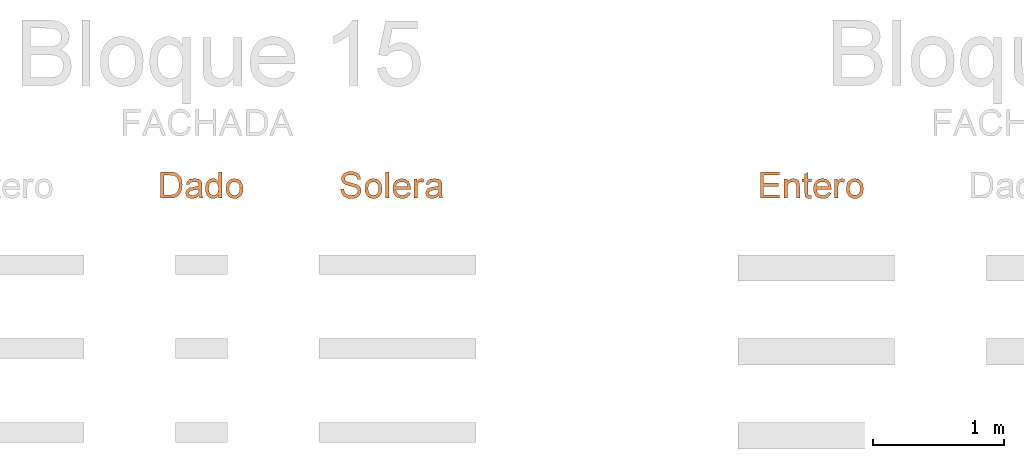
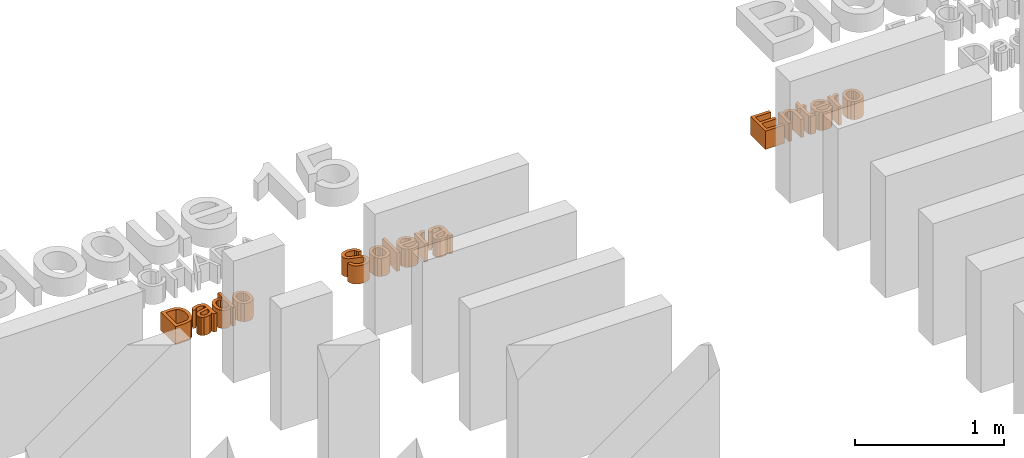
# One storey, part 18 of 19: 3 proxies.
"""IFC2X3 building model written with IfcOpenShell, lengths in metres."""

from ifc_helpers import new_model, entity, si_unit, converted_unit, derived_unit, direction, frame, frame_2d, origin, place, context, subcontext, project, spatial, polyline, rectangle, outline, extrude, type_object, element, save


model = new_model("IFC2X3")

# Units and contexts
model_context = context("Model", 3, precision=1e-05, world=origin(), true_north=direction((6.12303176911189e-17, 1.0)))
body_context = subcontext(model_context, "Body", "Model", "MODEL_VIEW")
ifc_project = project(units=[si_unit("LENGTHUNIT", "METRE"), si_unit("AREAUNIT", "SQUARE_METRE"), si_unit("VOLUMEUNIT", "CUBIC_METRE"), converted_unit("PLANEANGLEUNIT", "DEGREE", entity("IfcRatioMeasure", 0.0174532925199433), si_unit("PLANEANGLEUNIT", "RADIAN"), dimensions=[0, 0, 0, 0, 0, 0, 0]), si_unit("MASSUNIT", "GRAM", prefix="KILO"), derived_unit("MASSDENSITYUNIT", [(si_unit("MASSUNIT", "GRAM", prefix="KILO"), 1), (si_unit("LENGTHUNIT", "METRE"), -3)]), derived_unit("MOMENTOFINERTIAUNIT", [(si_unit("LENGTHUNIT", "METRE"), 4)]), si_unit("TIMEUNIT", "SECOND"), si_unit("FREQUENCYUNIT", "HERTZ"), si_unit("THERMODYNAMICTEMPERATUREUNIT", "DEGREE_CELSIUS"), derived_unit("THERMALTRANSMITTANCEUNIT", [(si_unit("MASSUNIT", "GRAM", prefix="KILO"), 1), (si_unit("THERMODYNAMICTEMPERATUREUNIT", "KELVIN"), -1), (si_unit("TIMEUNIT", "SECOND"), -3)]), derived_unit("VOLUMETRICFLOWRATEUNIT", [(si_unit("LENGTHUNIT", "METRE"), 3), (si_unit("TIMEUNIT", "SECOND"), -1)]), si_unit("ELECTRICCURRENTUNIT", "AMPERE"), si_unit("ELECTRICVOLTAGEUNIT", "VOLT"), si_unit("POWERUNIT", "WATT"), si_unit("FORCEUNIT", "NEWTON", prefix="KILO"), si_unit("ILLUMINANCEUNIT", "LUX"), si_unit("LUMINOUSFLUXUNIT", "LUMEN"), si_unit("LUMINOUSINTENSITYUNIT", "CANDELA"), derived_unit("USERDEFINED", [(si_unit("MASSUNIT", "GRAM", prefix="KILO"), -1), (si_unit("LENGTHUNIT", "METRE"), -2), (si_unit("TIMEUNIT", "SECOND"), 3), (si_unit("LUMINOUSFLUXUNIT", "LUMEN"), 1)]), derived_unit("LINEARVELOCITYUNIT", [(si_unit("LENGTHUNIT", "METRE"), 1), (si_unit("TIMEUNIT", "SECOND"), -1)]), si_unit("PRESSUREUNIT", "PASCAL"), derived_unit("USERDEFINED", [(si_unit("LENGTHUNIT", "METRE"), -2), (si_unit("MASSUNIT", "GRAM", prefix="KILO"), 1), (si_unit("TIMEUNIT", "SECOND"), -2)]), derived_unit("LINEARFORCEUNIT", [(si_unit("MASSUNIT", "GRAM", prefix="KILO"), 1), (si_unit("LENGTHUNIT", "METRE"), 1), (si_unit("TIMEUNIT", "SECOND"), -2), (si_unit("LENGTHUNIT", "METRE"), -1)]), derived_unit("PLANARFORCEUNIT", [(si_unit("MASSUNIT", "GRAM", prefix="KILO"), 1), (si_unit("LENGTHUNIT", "METRE"), 1), (si_unit("TIMEUNIT", "SECOND"), -2), (si_unit("LENGTHUNIT", "METRE"), -2)])], contexts=[model_context])

# Site, building, storey
site_placement = place(None, origin())
site = spatial("IfcSite", under=ifc_project, at=site_placement, Name="Default", CompositionType="ELEMENT")
building_placement = place(site_placement, origin())
building = spatial("IfcBuilding", under=site, at=building_placement, CompositionType="ELEMENT")
storey_placement = place(building_placement, origin())
storey = spatial("IfcBuildingStorey", under=building, at=storey_placement, Name="Nivel 1", CompositionType="ELEMENT", Elevation=0.0)

# Proxies
building_element_proxy_type_1 = type_object("IfcBuildingElementProxyType", Name="Texto de modelo:Subtítulo", PredefinedType="NOTDEFINED")
proxy_1_placement = place(storey_placement, origin())
element("IfcBuildingElementProxy", 1, at=proxy_1_placement, inside=storey, type_object=building_element_proxy_type_1, Name="Texto de modelo:Subtítulo", ObjectType="Texto de modelo:Subtítulo", context=body_context, shape_type="SweptSolid", body=[
    extrude(outline(polyline([(-0.112205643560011, -0.108781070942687), (-0.0395612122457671, -0.108781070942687), (-0.00726117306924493, -0.105347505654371), (0.0167492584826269, -0.0952675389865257), (0.0350943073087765, -0.0770451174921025), (0.0488285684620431, -0.0477862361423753), (0.0541751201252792, -0.00724564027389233), (0.0522008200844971, 0.0181382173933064), (0.0462779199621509, 0.0405299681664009), (0.0363818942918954, 0.0595617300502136), (0.022488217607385, 0.074865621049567), (0.00897468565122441, 0.0836580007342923), (-0.0070404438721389, 0.0892375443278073), (-0.0428966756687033, 0.0921315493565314), (-0.112205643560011, 0.0921315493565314), (-0.112205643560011, -0.108781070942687)]), holes=[polyline([(-0.0870915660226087, -0.0836669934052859), (-0.0870915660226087, 0.0670174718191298), (-0.0433381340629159, 0.0670174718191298), (-0.00772715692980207, 0.06299529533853), (0.00646695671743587, 0.0546075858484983), (0.0183434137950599, 0.0407261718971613), (0.0263816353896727, 0.0205171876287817), (0.0290610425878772, -0.00685323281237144), (0.0276937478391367, -0.0275098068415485), (0.0235918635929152, -0.04484318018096), (0.0170374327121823, -0.0589146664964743), (0.00831249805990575, -0.0697855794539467), (-0.010326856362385, -0.0800372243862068), (-0.0426514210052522, -0.0836669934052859), (-0.0870915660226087, -0.0836669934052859)])]), frame((2.65097390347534, 10.1620496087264, 0.0)), (0.0, 0.0, 1.0), 0.15),
    extrude(outline(polyline([(0.0711345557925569, 0.0146039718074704), (0.0909889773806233, 0.0146039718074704), (0.0989307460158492, 0.0384292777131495), (0.0773157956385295, 0.0403604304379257), (0.0355206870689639, 0.0529478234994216), (0.00587865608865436, 0.0628285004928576), (-0.0153562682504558, 0.0686142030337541), (-0.033962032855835, 0.066698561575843), (-0.050031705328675, 0.0539327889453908), (-0.0638910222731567, 0.0264700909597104), (-0.069575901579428, -0.00656115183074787), (-0.0677610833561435, -0.0204670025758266), (-0.0628595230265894, -0.0318600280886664), (-0.0430283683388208, -0.0499228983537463), (-0.0321084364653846, -0.0270903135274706), (-0.0404360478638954, -0.0190535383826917), (-0.0445407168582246, -0.0101752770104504), (-0.0446745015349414, 0.000882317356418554), (-0.0410894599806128, 0.0154570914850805), (-0.034256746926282, 0.0302160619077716), (-0.0254230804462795, 0.0394995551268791), (-0.0168259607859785, 0.0421015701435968), (-0.0056462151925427, 0.0401975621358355), (-0.000387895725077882, 0.038289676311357), (-0.00597195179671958, -0.00576232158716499), (-0.00926034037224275, -0.0275711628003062), (-0.0070034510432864, -0.0468594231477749), (0.00268333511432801, -0.0634021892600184), (0.0200094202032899, -0.0742445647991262), (0.0370349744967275, -0.0765654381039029), (0.0529320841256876, -0.0718015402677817), (0.0663086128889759, -0.0599412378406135), (0.075772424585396, -0.0409728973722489), (0.0795804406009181, -0.0138824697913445), (0.0711345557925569, 0.0146039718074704)]), holes=[polyline([(0.0234839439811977, 0.0304875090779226), (0.0301848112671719, 0.0280987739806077), (0.047355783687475, 0.0181870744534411), (0.055972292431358, -0.00195430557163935), (0.0564783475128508, -0.0146871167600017), (0.0536378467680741, -0.0279589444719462), (0.0483232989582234, -0.0395982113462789), (0.0415313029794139, -0.0470610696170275), (0.0339521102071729, -0.0504483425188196), (0.026275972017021, -0.0498608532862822), (0.0181946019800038, -0.043547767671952), (0.0150070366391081, -0.0321702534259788), (0.0179774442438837, -0.0103846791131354), (0.0234839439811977, 0.0304875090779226)])]), frame((2.7943701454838, 10.1349700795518, 0.0), z_axis=(0.0, 0.0, 1.0), x_axis=(0.316227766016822, -0.948683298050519, 0.0)), (0.0, 0.0, 1.0), 0.15),
    extrude(outline(polyline([(0.0429290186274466, -0.0757009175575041), (0.0680430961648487, -0.0757009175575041), (0.0680430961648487, 0.125211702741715), (0.0429290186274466, 0.125211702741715), (0.0429290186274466, 0.050359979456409), (0.0263988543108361, 0.0681409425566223), (0.0155340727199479, 0.0732728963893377), (0.00324681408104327, 0.0749835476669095), (-0.0136205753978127, 0.0725923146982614), (-0.0288079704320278, 0.065418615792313), (-0.0413650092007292, 0.0537567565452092), (-0.0503413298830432, 0.0379010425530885), (-0.055730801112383, 0.0189305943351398), (-0.0575272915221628, -0.00207546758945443), (-0.0555775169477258, -0.0233451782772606), (-0.0497281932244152, -0.0420274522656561), (-0.0403349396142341, -0.0574968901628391), (-0.0277533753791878, -0.069128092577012), (-0.0128909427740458, -0.0764121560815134), (0.0033449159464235, -0.0788401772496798), (0.0156229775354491, -0.0771632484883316), (0.0263130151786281, -0.0721324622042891), (0.0354150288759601, -0.0637478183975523), (0.0429290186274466, -0.052009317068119), (0.0429290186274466, -0.0757009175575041)]), holes=[polyline([(-0.0324132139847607, -0.00197736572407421), (-0.0297644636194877, 0.0213034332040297), (-0.0218182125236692, 0.0373860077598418), (-0.00991109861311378, 0.0467486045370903), (0.00462024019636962, 0.0498694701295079), (0.0195255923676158, 0.0466198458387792), (0.0318680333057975, 0.0368709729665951), (0.0401637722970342, 0.0201813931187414), (0.0429290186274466, -0.00389035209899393), (0.0402128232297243, -0.0259080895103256), (0.0320642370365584, -0.0414388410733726), (0.0200283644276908, -0.0506542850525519), (0.00565030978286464, -0.0537260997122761), (-0.00873387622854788, -0.0505071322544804), (-0.0210824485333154, -0.0408502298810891), (-0.0295805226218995, -0.0246940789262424), (-0.0324132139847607, -0.00197736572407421)])]), frame((2.9384748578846, 10.1289694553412, 0.0)), (0.0, 0.0, 1.0), 0.15),
    extrude(outline(polyline([(-0.0116534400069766, -0.0669843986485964), (0.0215735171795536, -0.0669843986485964), (0.0474010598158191, -0.0567621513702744), (0.0650090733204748, -0.0379496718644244), (0.0735774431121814, -0.012178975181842), (0.0737787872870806, 0.00568792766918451), (0.0693254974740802, 0.0227506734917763), (0.0604863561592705, 0.0378207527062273), (0.0475301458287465, 0.0497096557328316), (0.0292360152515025, 0.0584068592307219), (0.00438311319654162, 0.0639018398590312), (-0.0272289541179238, 0.0636287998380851), (-0.05258472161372, 0.0531926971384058), (-0.0702507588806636, 0.0343634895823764), (-0.0787936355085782, 0.00891113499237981), (-0.0780541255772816, -0.015529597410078), (-0.0686800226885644, -0.0371544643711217), (-0.0589084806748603, -0.0481042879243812), (-0.0461468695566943, -0.0567258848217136), (-0.0116534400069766, -0.0669843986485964)]), holes=[polyline([(-0.00825874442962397, -0.0421007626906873), (-0.0303624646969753, -0.0361073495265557), (-0.045170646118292, -0.0252557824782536), (-0.0529373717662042, -0.0109345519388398), (-0.0539167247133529, 0.00546785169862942), (-0.0485294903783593, 0.0208219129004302), (-0.0371292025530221, 0.0324839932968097), (-0.0201048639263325, 0.0389852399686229), (0.00215452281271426, 0.0388567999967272), (0.0247623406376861, 0.0327936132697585), (0.0398195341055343, 0.0219075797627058), (0.0476807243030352, 0.00759803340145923), (0.048700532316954, -0.00873569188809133), (0.043290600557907, -0.024253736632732), (0.0318894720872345, -0.0359218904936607), (0.0146540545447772, -0.0423382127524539), (-0.00825874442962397, -0.0421007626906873)])]), frame((3.10586013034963, 10.1246816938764, 0.0), z_axis=(0.0, 0.0, 1.0), x_axis=(0.137105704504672, -0.990556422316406, 0.0)), (0.0, 0.0, 1.0), 0.15),
])
building_element_proxy_type_2 = type_object("IfcBuildingElementProxyType", Name="Texto de modelo:Subtítulo", PredefinedType="NOTDEFINED")
proxy_2_placement = place(storey_placement, origin())
element("IfcBuildingElementProxy", 2, at=proxy_2_placement, inside=storey, type_object=building_element_proxy_type_2, Name="Texto de modelo:Subtítulo", ObjectType="Texto de modelo:Subtítulo", context=body_context, shape_type="SweptSolid", body=[
    extrude(outline(polyline([(0.0218430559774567, -0.0830511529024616), (0.042343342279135, -0.0830511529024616), (0.0613692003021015, -0.077901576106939), (0.0778293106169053, -0.067944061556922), (0.0906323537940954, -0.0535202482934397), (0.0998364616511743, -0.0344031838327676), (0.105499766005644, -0.0103659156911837), (0.106478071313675, 0.00974895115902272), (0.103281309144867, 0.0283577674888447), (0.0961570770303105, 0.0444883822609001), (0.0853529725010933, 0.0571686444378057), (0.0719268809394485, 0.0659642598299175), (0.0569366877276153, 0.0704409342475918), (0.0416687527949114, 0.0707071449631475), (0.0277006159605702, 0.0668285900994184), (0.0151233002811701, 0.058581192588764), (0.00402782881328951, 0.0457408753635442), (-0.0149040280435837, 0.00360508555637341), (-0.025816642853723, -0.0219105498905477), (-0.0347441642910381, -0.0349268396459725), (-0.0432956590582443, -0.0397313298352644), (-0.0531344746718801, -0.0403061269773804), (-0.0639228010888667, -0.0358704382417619), (-0.0721198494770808, -0.0261140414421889), (-0.0763993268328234, -0.010698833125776), (-0.075434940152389, 0.0107132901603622), (-0.0702469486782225, 0.0310091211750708), (-0.0615846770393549, 0.0449195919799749), (-0.0494863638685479, 0.052859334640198), (-0.0339902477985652, 0.055242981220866), (-0.0303397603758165, 0.0800903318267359), (-0.0472153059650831, 0.079706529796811), (-0.0628948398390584, 0.0748089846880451), (-0.076602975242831, 0.0654449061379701), (-0.087564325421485, 0.0516615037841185), (-0.0955734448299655, 0.0340978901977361), (-0.100424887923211, 0.0133931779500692), (-0.101575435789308, -0.0062068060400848), (-0.0990665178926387, -0.0244356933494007), (-0.0928592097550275, -0.0402270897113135), (-0.0829145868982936, -0.052514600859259), (-0.0702935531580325, -0.0609688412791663), (-0.0560570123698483, -0.0652604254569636), (-0.0427830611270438, -0.0654319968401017), (-0.03033211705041, -0.0619254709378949), (-0.0189136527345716, -0.0546481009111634), (-0.00873714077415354, -0.0435071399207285), (0.00923839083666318, -0.00636211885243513), (0.0240413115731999, 0.0284230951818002), (0.0307494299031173, 0.0382702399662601), (0.0378057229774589, 0.0436538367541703), (0.0539170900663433, 0.0455008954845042), (0.0697778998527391, 0.0375436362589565), (0.079786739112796, 0.0189441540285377), (0.0805098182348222, -0.00768602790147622), (0.0767013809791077, -0.0231896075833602), (0.070138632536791, -0.0366028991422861), (0.0615194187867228, -0.0470988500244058), (0.0515415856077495, -0.0538504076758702), (0.0254935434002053, -0.0582038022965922), (0.0218430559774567, -0.0830511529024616)])), frame((3.99385838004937, 10.1560153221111, 0.0), z_axis=(0.0, 0.0, 1.0), x_axis=(0.145356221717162, -0.989379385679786, 0.0)), (0.0, 0.0, 1.0), 0.15),
    extrude(outline(polyline([(-0.0116534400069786, -0.066984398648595), (0.0215735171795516, -0.066984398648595), (0.0474010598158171, -0.056762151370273), (0.0650090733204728, -0.0379496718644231), (0.0735774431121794, -0.0121789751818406), (0.0737787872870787, 0.00568792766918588), (0.0693254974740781, 0.0227506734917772), (0.0604863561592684, 0.0378207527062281), (0.0475301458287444, 0.0497096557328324), (0.0292360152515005, 0.0584068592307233), (0.00438311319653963, 0.0639018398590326), (-0.0272289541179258, 0.0636287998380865), (-0.0525847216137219, 0.0531926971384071), (-0.0702507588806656, 0.0343634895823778), (-0.0787936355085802, 0.00891113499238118), (-0.0780541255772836, -0.0155295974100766), (-0.0686800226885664, -0.0371544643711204), (-0.0589084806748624, -0.0481042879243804), (-0.0461468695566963, -0.0567258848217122), (-0.0116534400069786, -0.066984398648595)]), holes=[polyline([(-0.00825874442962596, -0.042100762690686), (-0.0303624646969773, -0.0361073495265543), (-0.0451706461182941, -0.0252557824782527), (-0.0529373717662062, -0.0109345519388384), (-0.0539167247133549, 0.00546785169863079), (-0.0485294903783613, 0.0208219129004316), (-0.0371292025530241, 0.032483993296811), (-0.0201048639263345, 0.0389852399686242), (0.00215452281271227, 0.0388567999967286), (0.0247623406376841, 0.0327936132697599), (0.0398195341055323, 0.0219075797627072), (0.0476807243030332, 0.0075980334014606), (0.048700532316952, -0.00873569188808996), (0.043290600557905, -0.0242537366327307), (0.0318894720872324, -0.0359218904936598), (0.0146540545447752, -0.0423382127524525), (-0.00825874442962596, -0.042100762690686)])]), frame((4.16803020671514, 10.1246816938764, 0.0), z_axis=(0.0, 0.0, 1.0), x_axis=(0.137105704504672, -0.990556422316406, 0.0)), (0.0, 0.0, 1.0), 0.15),
    extrude(rectangle(XDim=0.0251140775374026, YDim=0.200912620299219, at=frame_2d((0.0, 1.08246744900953e-15), x_axis=(1.0, 0.0))), frame((4.27273991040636, 10.1537248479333, 0.0)), (0.0, 0.0, 1.0), 0.15),
    extrude(outline(polyline([(-0.00993794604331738, -0.0410894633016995), (-0.0216263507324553, -0.0629882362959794), (-0.00136076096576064, -0.0664886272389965), (0.0181427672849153, -0.0629678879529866), (0.0362596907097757, -0.0523738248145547), (0.052365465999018, -0.0346542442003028), (0.0653616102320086, -0.00774419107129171), (0.0663157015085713, 0.0193800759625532), (0.0551946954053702, 0.0449978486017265), (0.0319655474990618, 0.0673884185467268), (0.00225549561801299, 0.0824990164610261), (-0.0263080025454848, 0.0848576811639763), (-0.0517924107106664, 0.0755140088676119), (-0.0722651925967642, 0.0555175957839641), (-0.0838796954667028, 0.0303111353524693), (-0.0839813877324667, 0.00365713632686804), (-0.0721795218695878, -0.0222407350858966), (-0.0480833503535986, -0.0451788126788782), (-0.0424775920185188, -0.0489757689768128), (0.0228336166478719, 0.0430743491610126), (0.035649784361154, 0.0286508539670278), (0.0410775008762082, 0.012417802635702), (0.0395747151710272, -0.00438600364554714), (0.0315993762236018, -0.0205217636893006), (0.0130702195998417, -0.0375669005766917), (0.00222602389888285, -0.0410894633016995), (-0.00993794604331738, -0.0410894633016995)]), holes=[polyline([(0.00235136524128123, 0.0576068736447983), (-0.0485124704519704, -0.0140810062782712), (-0.0573680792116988, -0.00363287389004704), (-0.0612558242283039, 0.0072899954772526), (-0.0599840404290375, 0.0243403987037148), (-0.0517261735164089, 0.0410650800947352), (-0.0400149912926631, 0.0535127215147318), (-0.0261693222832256, 0.0608523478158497), (-0.0115826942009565, 0.0624337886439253), (0.00235136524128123, 0.0576068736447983)])]), frame((4.38700735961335, 10.1128899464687, 0.0), z_axis=(0.0, 0.0, -1.0), x_axis=(-0.578660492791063, -0.815568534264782, 0.0)), (0.0, 0.0, -1.0), 0.15),
    extrude(outline(polyline([(-0.0370877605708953, -0.111431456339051), (-0.0119736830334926, -0.111431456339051), (-0.0119736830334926, -0.0338819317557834), (-0.00790245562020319, -0.00454947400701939), (0.00114744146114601, 0.0091847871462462), (0.0153476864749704, 0.0141389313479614), (0.0330060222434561, 0.00898858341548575), (0.0413937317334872, 0.031502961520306), (0.0286895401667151, 0.0373154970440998), (0.0161815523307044, 0.039253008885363), (0.000485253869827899, 0.0343969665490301), (-0.0151129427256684, 0.0142860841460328), (-0.0151129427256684, 0.0361137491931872), (-0.0370877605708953, 0.0361137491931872), (-0.0370877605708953, -0.111431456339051)])), frame((4.51387955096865, 10.1646999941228, 0.0)), (0.0, 0.0, 1.0), 0.15),
    extrude(outline(polyline([(0.0711345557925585, 0.0146039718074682), (0.0909889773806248, 0.0146039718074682), (0.0989307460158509, 0.0384292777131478), (0.0773157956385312, 0.040360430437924), (0.0355206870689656, 0.0529478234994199), (0.00587865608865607, 0.0628285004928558), (-0.0153562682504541, 0.0686142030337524), (-0.0339620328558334, 0.0666985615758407), (-0.0500317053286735, 0.0539327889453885), (-0.0638910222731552, 0.0264700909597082), (-0.0695759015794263, -0.00656115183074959), (-0.067761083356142, -0.0204670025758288), (-0.0628595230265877, -0.0318600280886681), (-0.0430283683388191, -0.049922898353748), (-0.0321084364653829, -0.0270903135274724), (-0.0404360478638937, -0.0190535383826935), (-0.0445407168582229, -0.0101752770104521), (-0.0446745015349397, 0.000882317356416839), (-0.0410894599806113, 0.0154570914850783), (-0.0342567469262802, 0.0302160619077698), (-0.0254230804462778, 0.0394995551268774), (-0.016825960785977, 0.0421015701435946), (-0.00564621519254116, 0.0401975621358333), (-0.000387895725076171, 0.0382896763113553), (-0.00597195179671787, -0.0057623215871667), (-0.00926034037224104, -0.0275711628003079), (-0.00700345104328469, -0.0468594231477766), (0.00268333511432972, -0.0634021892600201), (0.0200094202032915, -0.0742445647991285), (0.0370349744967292, -0.0765654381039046), (0.0529320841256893, -0.0718015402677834), (0.0663086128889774, -0.0599412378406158), (0.0757724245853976, -0.0409728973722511), (0.0795804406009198, -0.0138824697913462), (0.0711345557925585, 0.0146039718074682)]), holes=[polyline([(0.0234839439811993, 0.0304875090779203), (0.0301848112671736, 0.028098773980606), (0.0473557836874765, 0.0181870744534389), (0.0559722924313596, -0.00195430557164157), (0.0564783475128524, -0.014687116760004), (0.0536378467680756, -0.0279589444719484), (0.048323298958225, -0.0395982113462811), (0.0415313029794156, -0.0470610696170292), (0.0339521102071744, -0.0504483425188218), (0.0262759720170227, -0.049860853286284), (0.0181946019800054, -0.0435477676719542), (0.0150070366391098, -0.0321702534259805), (0.0179774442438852, -0.0103846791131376), (0.0234839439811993, 0.0304875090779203)])]), frame((4.62879810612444, 10.1349700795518, 0.0), z_axis=(0.0, 0.0, 1.0), x_axis=(0.316227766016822, -0.948683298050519, 0.0)), (0.0, 0.0, 1.0), 0.15),
])
building_element_proxy_type_3 = type_object("IfcBuildingElementProxyType", Name="Texto de modelo:Subtítulo", PredefinedType="NOTDEFINED")
proxy_3_placement = place(storey_placement, origin())
element("IfcBuildingElementProxy", 3, at=proxy_3_placement, inside=storey, type_object=building_element_proxy_type_3, Name="Texto de modelo:Subtítulo", ObjectType="Texto de modelo:Subtítulo", context=body_context, shape_type="SweptSolid", body=[
    extrude(outline(polyline([(-0.0800511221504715, -0.101502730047), (0.0674940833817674, -0.101502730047), (0.0674940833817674, -0.0763886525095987), (-0.0549370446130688, -0.0763886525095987), (-0.0549370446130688, -0.0104641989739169), (0.0580763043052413, -0.0104641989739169), (0.0580763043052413, 0.0146498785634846), (-0.0549370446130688, 0.0146498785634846), (-0.0549370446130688, 0.074295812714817), (0.0643548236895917, 0.074295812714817), (0.0643548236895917, 0.0994098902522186), (-0.0800511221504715, 0.0994098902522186), (-0.0800511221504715, -0.101502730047)])), frame((7.20433320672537, 10.1547712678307, 0.0)), (0.0, 0.0, 1.0), 0.15),
    extrude(outline(polyline([(-0.0610913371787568, -0.102201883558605), (-0.0359772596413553, -0.102201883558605), (-0.0359772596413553, -0.023916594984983), (-0.0331139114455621, -0.000776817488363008), (-0.0245238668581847, 0.0135092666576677), (-0.011985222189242, 0.0209036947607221), (0.00272392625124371, 0.023368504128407), (0.0199653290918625, 0.0189784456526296), (0.030192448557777, 0.00723074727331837), (0.0330864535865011, -0.0149893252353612), (0.0330864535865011, -0.102201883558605), (0.0582005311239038, -0.102201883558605), (0.0582005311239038, -0.0116048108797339), (0.0568761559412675, 0.0126754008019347), (0.0493468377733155, 0.0311430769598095), (0.0331600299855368, 0.0437001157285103), (0.00944390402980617, 0.0484825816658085), (-0.00454174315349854, 0.0469987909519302), (-0.0167738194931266, 0.042547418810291), (-0.0272523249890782, 0.035128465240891), (-0.0359772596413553, 0.0247419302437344), (-0.0359772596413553, 0.0453433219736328), (-0.0610913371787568, 0.0453433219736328), (-0.0610913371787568, -0.102201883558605)])), frame((7.36745048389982, 10.1554704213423, 0.0)), (0.0, 0.0, 1.0), 0.15),
    extrude(outline(polyline([(-0.0351329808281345, -0.0583737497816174), (-0.0402910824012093, -0.0796644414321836), (-0.021812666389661, -0.0838186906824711), (-0.000471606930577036, -0.0816406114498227), (0.0110045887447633, -0.0717345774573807), (0.0167042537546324, -0.0436466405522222), (0.0243888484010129, 0.0379564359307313), (0.0431414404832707, 0.0361904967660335), (0.0454960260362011, 0.0611939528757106), (0.0267434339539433, 0.0629598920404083), (0.0301051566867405, 0.0986581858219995), (0.00648593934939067, 0.11571206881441), (0.0017399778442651, 0.0653144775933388), (-0.0232634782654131, 0.0676690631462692), (-0.0256180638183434, 0.0426656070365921), (-0.000614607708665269, 0.0403110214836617), (-0.00823022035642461, -0.0405595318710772), (-0.010762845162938, -0.0533277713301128), (-0.0154658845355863, -0.0574914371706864), (-0.0241462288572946, -0.0583737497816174), (-0.0351329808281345, -0.0583737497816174)])), frame((7.48404492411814, 10.1356238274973, 0.0), z_axis=(0.0, 0.0, -1.0), x_axis=(-0.995595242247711, 0.0937556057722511, 0.0)), (0.0, 0.0, -1.0), 0.15),
    extrude(outline(polyline([(-0.00993794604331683, -0.0410894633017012), (-0.0216263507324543, -0.0629882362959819), (-0.00136076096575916, -0.0664886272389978), (0.0181427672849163, -0.0629678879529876), (0.0362596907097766, -0.0523738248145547), (0.0523654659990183, -0.0346542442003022), (0.0653616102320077, -0.00774419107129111), (0.0663157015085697, 0.0193800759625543), (0.0551946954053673, 0.0449978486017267), (0.0319655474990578, 0.0673884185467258), (0.00225549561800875, 0.0824990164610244), (-0.0263080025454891, 0.0848576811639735), (-0.0517924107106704, 0.0755140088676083), (-0.0722651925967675, 0.0555175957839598), (-0.0838796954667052, 0.0303111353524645), (-0.0839813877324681, 0.00365713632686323), (-0.0721795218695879, -0.0222407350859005), (-0.0480833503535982, -0.0451788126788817), (-0.042477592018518, -0.0489757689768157), (0.0228336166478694, 0.0430743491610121), (0.035649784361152, 0.0286508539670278), (0.0410775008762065, 0.0124178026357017), (0.0395747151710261, -0.00438600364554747), (0.0315993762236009, -0.0205217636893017), (0.0130702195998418, -0.037566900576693), (0.00222602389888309, -0.0410894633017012), (-0.00993794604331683, -0.0410894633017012)]), holes=[polyline([(0.0023513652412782, 0.0576068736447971), (-0.0485124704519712, -0.0140810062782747), (-0.0573680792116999, -0.00363287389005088), (-0.0612558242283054, 0.00728999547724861), (-0.0599840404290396, 0.0243403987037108), (-0.0517261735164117, 0.0410650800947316), (-0.0400149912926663, 0.0535127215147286), (-0.0261693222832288, 0.0608523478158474), (-0.0115826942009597, 0.0624337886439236), (0.0023513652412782, 0.0576068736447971)])]), frame((7.60270365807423, 10.1128899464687, 0.0), z_axis=(0.0, 0.0, -1.0), x_axis=(-0.578660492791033, -0.815568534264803, 0.0)), (0.0, 0.0, -1.0), 0.15),
    extrude(outline(polyline([(-0.0370877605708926, -0.111431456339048), (-0.011973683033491, -0.111431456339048), (-0.011973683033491, -0.0338819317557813), (-0.00790245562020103, -0.00454947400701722), (0.00114744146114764, 0.00918478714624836), (0.015347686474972, 0.0141389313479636), (0.0330060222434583, 0.00898858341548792), (0.0413937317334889, 0.0315029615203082), (0.0286895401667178, 0.037315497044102), (0.016181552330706, 0.0392530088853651), (0.000485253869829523, 0.0343969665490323), (-0.0151129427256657, 0.014286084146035), (-0.0151129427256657, 0.0361137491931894), (-0.0370877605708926, 0.0361137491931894), (-0.0370877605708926, -0.111431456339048)])), frame((7.72957584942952, 10.1646999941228, 0.0)), (0.0, 0.0, 1.0), 0.15),
    extrude(outline(polyline([(-0.0116534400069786, -0.0669843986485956), (0.0215735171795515, -0.0669843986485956), (0.0474010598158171, -0.056762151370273), (0.0650090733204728, -0.037949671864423), (0.0735774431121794, -0.0121789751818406), (0.0737787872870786, 0.00568792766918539), (0.0693254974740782, 0.0227506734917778), (0.0604863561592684, 0.0378207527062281), (0.0475301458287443, 0.0497096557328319), (0.0292360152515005, 0.0584068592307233), (0.00438311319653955, 0.063901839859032), (-0.0272289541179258, 0.0636287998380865), (-0.0525847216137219, 0.0531926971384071), (-0.0702507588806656, 0.0343634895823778), (-0.0787936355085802, 0.00891113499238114), (-0.0780541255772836, -0.0155295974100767), (-0.0686800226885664, -0.0371544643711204), (-0.0589084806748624, -0.0481042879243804), (-0.0461468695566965, -0.0567258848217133), (-0.0116534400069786, -0.0669843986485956)]), holes=[polyline([(-0.00825874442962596, -0.042100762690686), (-0.0303624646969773, -0.0361073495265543), (-0.0451706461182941, -0.0252557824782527), (-0.0529373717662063, -0.010934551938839), (-0.0539167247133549, 0.00546785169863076), (-0.0485294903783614, 0.020821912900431), (-0.0371292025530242, 0.0324839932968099), (-0.0201048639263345, 0.0389852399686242), (0.00215452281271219, 0.038856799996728), (0.0247623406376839, 0.0327936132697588), (0.0398195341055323, 0.0219075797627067), (0.0476807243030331, 0.00759803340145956), (0.048700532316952, -0.00873569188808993), (0.043290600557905, -0.0242537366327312), (0.0318894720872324, -0.0359218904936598), (0.0146540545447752, -0.0423382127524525), (-0.00825874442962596, -0.042100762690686)])]), frame((7.84833693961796, 10.1246816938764, 0.0), z_axis=(0.0, 0.0, 1.0), x_axis=(0.137105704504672, -0.990556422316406, 0.0)), (0.0, 0.0, 1.0), 0.15),
])

save(model, "model.ifc")
